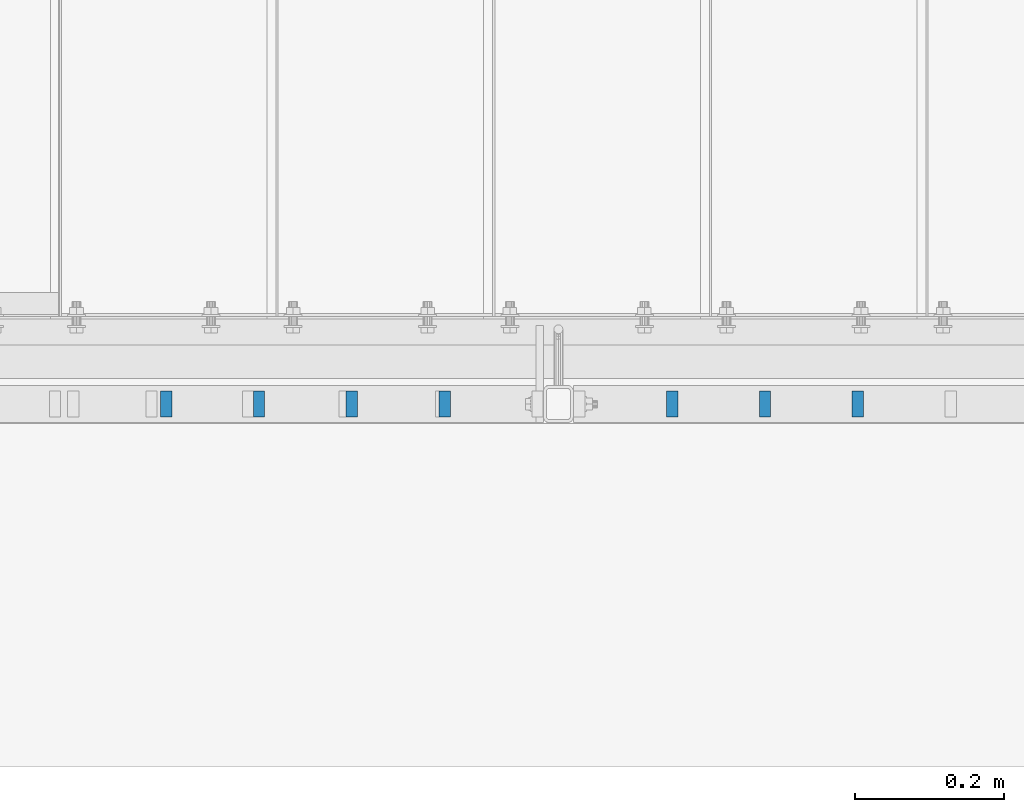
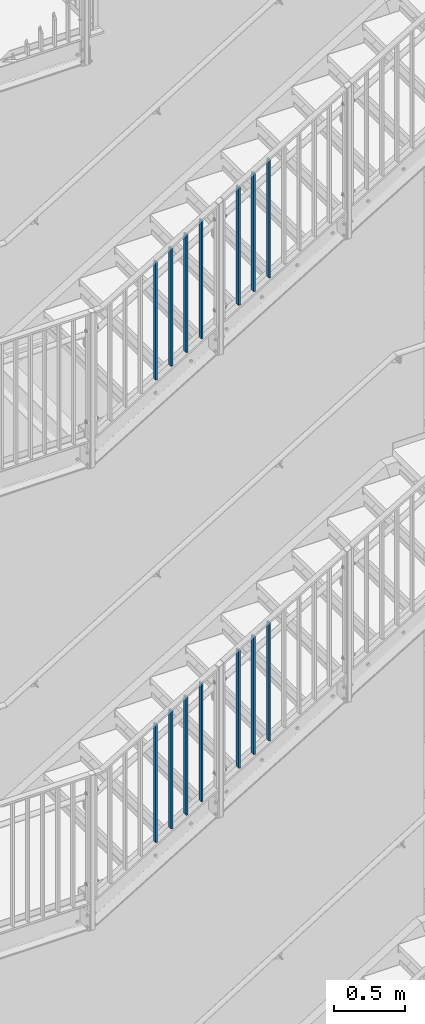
# One storey, part 8 of 410: 14 columns.
"""IFC2X3 building model written with IfcOpenShell, lengths in millimetres."""

import ifcopenshell
import ifcopenshell.guid

model = None  # the IFC model being written
_history = None  # IfcOwnerHistory: only IFC2X3 demands one
_inside = {}  # id of a spatial element -> (the spatial element, [elements in it])
_under = {}  # id of a project, library or spatial element -> (it, [spatial elements below it])
_declared = {}  # id of a project -> (the project, [libraries it declares])
_typed = {}  # id of a type object -> (the type object, [elements of that type])
_made_of = {}  # id of a material, layer set ... -> (it, [elements and type objects made of it])


def new_model(schema):
    """Start an empty IFC model of exactly this schema.

    Asked for "IFC4X3", IfcOpenShell would pick the latest addendum, in which some entities
    have other attributes; the version numbers below select the first issue.
    IFC2X3 requires an IfcOwnerHistory on every rooted entity: one is made here for all.
    """
    global model, _history
    if schema == "IFC4X3":
        model = ifcopenshell.file(schema_version=(4, 3, 0, 0))
    else:
        model = ifcopenshell.file(schema=schema)
    _inside.clear()
    _under.clear()
    _declared.clear()
    _typed.clear()
    _made_of.clear()
    _history = None
    if model.schema == "IFC2X3":
        org = make("IfcOrganization", Name="unknown")
        user = make(
            "IfcPersonAndOrganization",
            ThePerson=make("IfcPerson", FamilyName="unknown"),
            TheOrganization=org,
        )
        app = make(
            "IfcApplication",
            ApplicationDeveloper=org,
            Version="unknown",
            ApplicationFullName="unknown",
            ApplicationIdentifier="unknown",
        )
        _history = make(
            "IfcOwnerHistory",
            OwningUser=user,
            OwningApplication=app,
            ChangeAction="ADDED",
            CreationDate=0,
        )
    return model


def make(cls, **values):
    """One entity of the class cls with the attributes given. An attribute that is None is left unset."""
    return model.create_entity(
        cls, **{name: value for name, value in values.items() if value is not None}
    )


def entity(cls, *values):
    """Any entity or typed value of the class cls, its attributes in the order of the schema. None: left unset."""
    e = model.create_entity(cls)
    for i, value in enumerate(values):
        if value is not None:
            e[i] = value
    return e


def rooted(cls, **values):
    """An entity with a GlobalId (a new one), such as an element, a storey or a relation."""
    return make(cls, GlobalId=ifcopenshell.guid.new(), OwnerHistory=_history, **values)


def si_unit(unit_type, name, prefix=None):
    """IfcSIUnit, for example si_unit("LENGTHUNIT", "METRE", prefix="MILLI")."""
    return make("IfcSIUnit", UnitType=unit_type, Prefix=prefix, Name=name)


def converted_unit(unit_type, name, factor, base, dimensions=None, offset=None):
    """IfcConversionBasedUnit, such as the inch: factor (a typed value) times the base unit."""
    return make(
        "IfcConversionBasedUnit"
        if offset is None
        else "IfcConversionBasedUnitWithOffset",
        ConversionOffset=offset,
        Dimensions=None
        if dimensions is None
        else entity("IfcDimensionalExponents", *dimensions),
        UnitType=unit_type,
        Name=name,
        ConversionFactor=make(
            "IfcMeasureWithUnit", ValueComponent=factor, UnitComponent=base
        ),
    )


def assignment(units):
    """IfcUnitAssignment: the units of a project."""
    return None if units is None else make("IfcUnitAssignment", Units=units)


def point(xyz):
    """IfcCartesianPoint."""
    return None if xyz is None else make("IfcCartesianPoint", Coordinates=xyz)


def direction(xyz):
    """IfcDirection."""
    return None if xyz is None else make("IfcDirection", DirectionRatios=xyz)


def frame(location, z_axis=None, x_axis=None):
    """IfcAxis2Placement3D, a coordinate frame: its origin and axes. An axis left out is left unset."""
    return make(
        "IfcAxis2Placement3D",
        Location=point(location),
        Axis=direction(z_axis),
        RefDirection=direction(x_axis),
    )


def frame_2d(location, x_axis=None):
    """IfcAxis2Placement2D, a coordinate frame in the plane: its origin and x axis."""
    return make(
        "IfcAxis2Placement2D", Location=point(location), RefDirection=direction(x_axis)
    )


def origin():
    """The frame at (0, 0, 0) with its axes left unset."""
    return frame((0.0, 0.0, 0.0))


def origin_with_axes():
    """The frame at (0, 0, 0) with the z axis (0, 0, 1) and the x axis (1, 0, 0) written out."""
    return frame((0.0, 0.0, 0.0), z_axis=(0.0, 0.0, 1.0), x_axis=(1.0, 0.0, 0.0))


def origin_2d():
    """The frame at (0, 0) in the plane with its x axis left unset."""
    return frame_2d((0.0, 0.0))


def place(relative_to, where):
    """IfcLocalPlacement: puts the frame where relative to a parent placement (None: the world)."""
    return make(
        "IfcLocalPlacement", PlacementRelTo=relative_to, RelativePlacement=where
    )


def context(
    kind, dimensions, precision=None, world=None, true_north=None, identifier=None
):
    """IfcGeometricRepresentationContext, for example the 3D "Model" context."""
    return make(
        "IfcGeometricRepresentationContext",
        ContextIdentifier=identifier,
        ContextType=kind,
        CoordinateSpaceDimension=dimensions,
        Precision=precision,
        WorldCoordinateSystem=world,
        TrueNorth=true_north,
    )


def project(units=None, contexts=None):
    """IfcProject with its units and contexts."""
    return rooted(
        "IfcProject",
        Name="project",
        RepresentationContexts=contexts,
        UnitsInContext=assignment(units),
    )


def spatial(cls, under=None, at=None, **own):
    """A site, building, storey or space (cls), placed at a placement, below another one or the project."""
    s = rooted(cls, ObjectPlacement=at, **own)
    if under is not None:
        _under.setdefault(under.id(), (under, []))[1].append(s)
    return s


def profile(cls, at=None, kind="AREA", **sizes):
    """A parametric profile (cls). Its sizes go by their IFC names, for example OverallWidth=200.0."""
    return make(cls, ProfileType=kind, Position=at, **sizes)


def rectangle(**sizes):
    """IfcRectangleProfileDef."""
    return profile("IfcRectangleProfileDef", **sizes)


def extrude(swept, where, along, depth):
    """IfcExtrudedAreaSolid: the profile swept, set in the frame where, extruded along a direction by depth."""
    return make(
        "IfcExtrudedAreaSolid",
        SweptArea=swept,
        Position=where,
        ExtrudedDirection=direction(along),
        Depth=depth,
    )


def shape(context_of_items, identifier, shape_type, items):
    """IfcShapeRepresentation: the items that make up one representation, for example the "Body"."""
    return make(
        "IfcShapeRepresentation",
        ContextOfItems=context_of_items,
        RepresentationIdentifier=identifier,
        RepresentationType=shape_type,
        Items=items,
    )


def material(Name=None, Category=None):
    """IfcMaterial."""
    return make("IfcMaterial", Name=Name, Category=Category)


def made_of(thing, what):
    """Note that an element or type object is made of a material, layer set ...; save() writes the relation."""
    if what is not None:
        _made_of.setdefault(what.id(), (what, []))[1].append(thing)
    return thing


def element(
    cls,
    number,
    at=None,
    inside=None,
    cuts=None,
    type_object=None,
    material=None,
    context=None,
    identifier="Body",
    shape_type=None,
    held_by="IfcProductDefinitionShape",
    body=None,
    shapes=None,
    **own,
):
    """One element of the class cls, such as IfcWall. Its Tag is "e" and its number.

    at: its placement. inside: the storey or other place that contains it. cuts: it is an
    opening in that element (IfcRelVoidsElement). A single representation is given by context,
    identifier, shape_type and body (its items); several are given by shapes. held_by: the class
    of the entity that holds the representations. save() writes the other relations.
    """
    e = rooted(cls, Tag="e%d" % number, ObjectPlacement=at, **own)
    if body is not None:
        shapes = [shape(context, identifier, shape_type, body)]
    if shapes is not None:
        e.Representation = make(held_by, Representations=shapes)
    if inside is not None:
        _inside.setdefault(inside.id(), (inside, []))[1].append(e)
    if cuts is not None:
        rooted(
            "IfcRelVoidsElement", RelatingBuildingElement=cuts, RelatedOpeningElement=e
        )
    if type_object is not None:
        _typed.setdefault(type_object.id(), (type_object, []))[1].append(e)
    return made_of(e, material)


def aggregate(whole, parts):
    """IfcRelAggregates: a whole, such as a stair, and the parts it consists of."""
    return rooted("IfcRelAggregates", RelatingObject=whole, RelatedObjects=parts)


def save(model, path):
    """Write the relations noted so far, then the file.

    IfcRelAggregates (storeys below a building ...), IfcRelContainedInSpatialStructure (elements
    in a storey), IfcRelDefinesByType, IfcRelAssociatesMaterial and IfcRelDeclares: one each for
    every whole, place, type object, material and project.
    """
    for whole, parts in _under.values():
        aggregate(whole, parts)
    for where, things in _inside.values():
        rooted(
            "IfcRelContainedInSpatialStructure",
            RelatedElements=things,
            RelatingStructure=where,
        )
    for kind, things in _typed.values():
        rooted("IfcRelDefinesByType", RelatedObjects=things, RelatingType=kind)
    for what, things in _made_of.values():
        rooted("IfcRelAssociatesMaterial", RelatedObjects=things, RelatingMaterial=what)
    for by, libraries in _declared.values():
        rooted("IfcRelDeclares", RelatingContext=by, RelatedDefinitions=libraries)
    model.write(path)


model = new_model("IFC2X3")

# Units and contexts
model_context = context("Model", 3, precision=1e-09, world=origin_with_axes())
ifc_project = project(units=[si_unit("LENGTHUNIT", "METRE", prefix="MILLI"), si_unit("AREAUNIT", "SQUARE_METRE"), si_unit("VOLUMEUNIT", "CUBIC_METRE"), converted_unit("PLANEANGLEUNIT", "DEGREE", entity("IfcPlaneAngleMeasure", 0.01745329), si_unit("PLANEANGLEUNIT", "RADIAN"), dimensions=[0, 0, 0, 0, 0, 0, 0])], contexts=[model_context])

# Site, building, storey
site_placement = place(None, origin_with_axes())
site = spatial("IfcSite", under=ifc_project, at=site_placement, Name="mKR Teilneubau & Sanierung BA1 - Ostfildern", CompositionType="ELEMENT")
building_placement = place(site_placement, origin_with_axes())
building = spatial("IfcBuilding", under=site, at=building_placement, Name="Struktur 1", CompositionType="ELEMENT")
storey_placement = place(building_placement, origin_with_axes())
storey = spatial("IfcBuildingStorey", under=building, at=storey_placement, Name="Default Storey", CompositionType="ELEMENT", Elevation=0.0)

# Columns
ifc_material = material(Name="S235JR")
for number, where, z_axis, x_axis in (
    (1, (-1259.998531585, 15405.999999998, 5346.489983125), (0.0, 0.0, 1.0), (-1.0, 0.0, 0.0)),
    (2, (-1135.748531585, 15405.999999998, 5421.468431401), (0.0, 0.0, 1.0), (-1.0, 0.0, 0.0)),
    (3, (-1011.498531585, 15405.999999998, 5496.446879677), (0.0, 0.0, 1.0), (-1.0, 0.0, 0.0)),
    (4, (-887.248531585, 15405.999999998, 5571.425327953), (0.0, 0.0, 1.0), (-1.0, 0.0, 0.0)),
    (5, (-582.748531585, 15405.999999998, 5755.175327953), (0.0, 0.0, 1.0), (-1.0, 0.0, 0.0)),
    (6, (-458.498531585, 15405.999999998, 5830.153776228), (0.0, 0.0, 1.0), (-1.0, 0.0, 0.0)),
    (7, (-334.248531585, 15405.999999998, 5905.132224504), (0.0, 0.0, 1.0), (-1.0, 0.0, 0.0)),
):
    element("IfcColumn", number, at=place(None, frame(where, z_axis=z_axis, x_axis=x_axis)), inside=storey, material=ifc_material, Name="-", ObjectType="-", context=model_context, shape_type="SweptSolid", body=[
        extrude(rectangle(XDim=15.0, YDim=35.0, at=origin_2d()), origin(), (0.0, 0.0, -1.0), 1020.870181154),
    ])
for number, where, z_axis, x_axis in (
    (8, (-1259.99853167, 15405.999999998, 1344.879154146), (0.0, 0.0, 1.0), (-1.0, 0.0, 0.0)),
    (9, (-1135.74853167, 15405.999999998, 1419.391897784), (0.0, 0.0, 1.0), (-1.0, 0.0, 0.0)),
    (10, (-1011.49853167, 15405.999999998, 1493.904641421), (0.0, 0.0, 1.0), (-1.0, 0.0, 0.0)),
    (11, (-887.24853167, 15405.999999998, 1568.417385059), (0.0, 0.0, 1.0), (-1.0, 0.0, 0.0)),
    (12, (-582.74853167, 15405.999999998, 1751.026080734), (0.0, 0.0, 1.0), (-1.0, 0.0, 0.0)),
    (13, (-458.49853167, 15405.999999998, 1825.538824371), (0.0, 0.0, 1.0), (-1.0, 0.0, 0.0)),
    (14, (-334.24853167, 15405.999999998, 1900.051568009), (0.0, 0.0, 1.0), (-1.0, 0.0, 0.0)),
):
    element("IfcColumn", number, at=place(None, frame(where, z_axis=z_axis, x_axis=x_axis)), inside=storey, material=ifc_material, Name="-", ObjectType="-", context=model_context, shape_type="SweptSolid", body=[
        extrude(rectangle(XDim=15.0, YDim=35.0, at=origin_2d()), origin(), (0.0, 0.0, -1.0), 1021.042329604),
    ])

save(model, "model.ifc")
